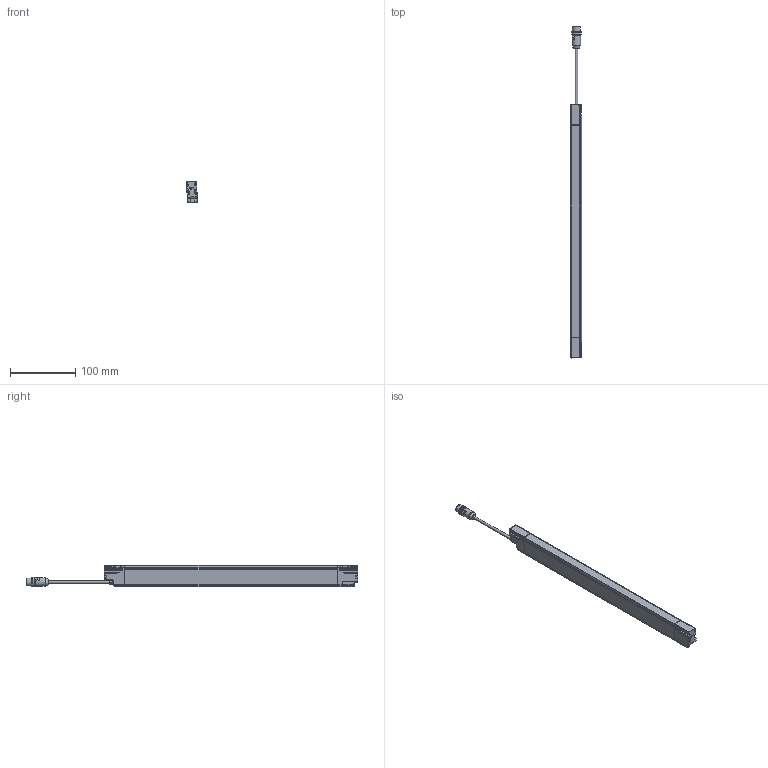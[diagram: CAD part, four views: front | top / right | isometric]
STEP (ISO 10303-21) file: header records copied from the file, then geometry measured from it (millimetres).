
FILE_DESCRIPTION(/* description */ (''),/* implementation_level */ '2;1');
FILE_NAME(/* name */ 'DSD-0628.stp',/* time_stamp */ '2015-02-23T17:06:04+01:00',/* author */ (''),/* organization */ (''),/* preprocessor_version */ 'ST-DEVELOPER v11',/* originating_system */ 'SIEMENS PLM Software NX 7.5',/* authorisation */ '');
FILE_SCHEMA (('AUTOMOTIVE_DESIGN { 1 0 10303 214 1 1 1 1 }'));
Length unit declared in the file: millimetre
Products named in the file (1): AP008104_00
Bounding box: 17.36 x 510.24 x 33.46 mm (x, y, z)
Surface area: 49536.9 mm2 (no closed solid volume)
Topology: 0 solids, 45 shells, 1088 faces, 3731 edges, 2558 vertices
Faces by surface type: cylinder 398, plane 321, bspline 153, torus 117, sphere 66, cone 33
Full cylindrical faces by diameter (mm): 1 x5, 1.2 x2, 2.6 x6, 4 x1, 8.3 x1, 9.4 x1, 10.4 x1, 12 x1, 13 x1, 13.5 x1, 14.5 x2
Entity records: 46538 total; most frequent: CARTESIAN_POINT 15201, DIRECTION 6734, ORIENTED_EDGE 5766, EDGE_CURVE 3604, AXIS2_PLACEMENT_3D 2544, VERTEX_POINT 2524, LINE 1646, VECTOR 1646
